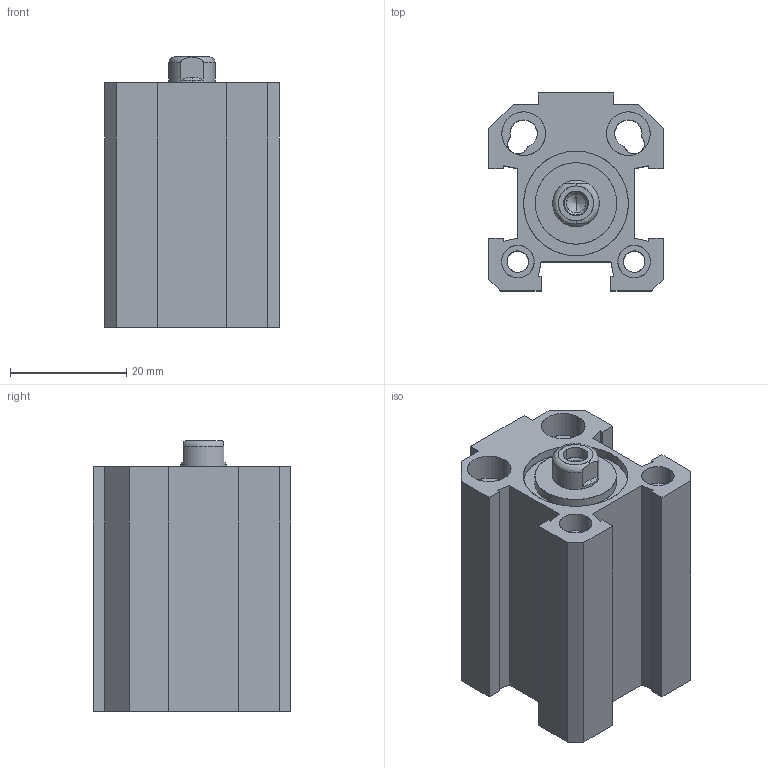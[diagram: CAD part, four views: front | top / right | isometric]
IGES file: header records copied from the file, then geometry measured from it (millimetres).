
Start section: SolidWorks IGES file using analytic representation for surfaces
Global section: file name: c:\CATALO3D\IGS\SHDM16.0010.IGS; native system: SolidWorks 2005 by SolidWorks Corporation; preprocessor: SolidWorks 2005 by SolidWorks Corporation; author: tania; date: 051018.141031; units: millimetre
Bounding box: 30 x 34 x 46.5 mm (x, y, z)
Surface area: 15346 mm2 (no closed solid volume)
Topology: 0 solids, 0 shells, 377 faces, 3424 edges, 3418 vertices
Faces by surface type: revolution 218, bspline 159
